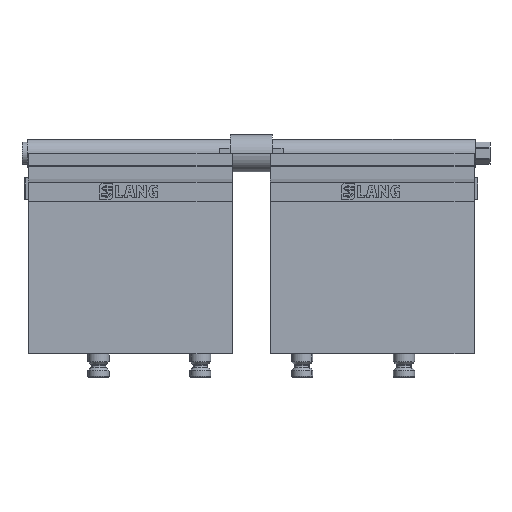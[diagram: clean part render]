
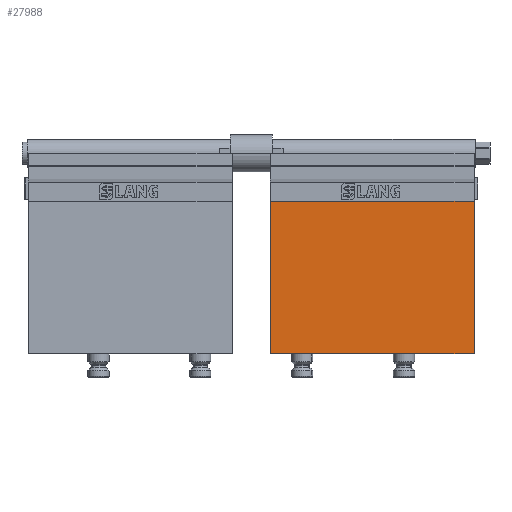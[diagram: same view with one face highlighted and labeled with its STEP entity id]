
A CAD part, top view. The second image highlights one B-rep face of the part: STEP entity #27988.
In plain terms, the highlighted planar face has unit normal (0, 0, 1).
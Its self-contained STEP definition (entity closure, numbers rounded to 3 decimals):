
#236 = VECTOR ( 'NONE', #30507, 1000. ) ;
#2819 = DIRECTION ( 'NONE',  ( 0., 0., -1. ) ) ;
#3798 = VECTOR ( 'NONE', #42338, 1000. ) ;
#6306 = PLANE ( 'NONE',  #24923 ) ;
#6441 = VECTOR ( 'NONE', #40578, 1000. ) ;
#6874 = DIRECTION ( 'NONE',  ( 1., 0., 0. ) ) ;
#8220 = CARTESIAN_POINT ( 'NONE',  ( 209.99, 143.799, 62.8 ) ) ;
#9031 = LINE ( 'NONE', #27328, #236 ) ;
#9990 = EDGE_CURVE ( 'NONE', #45736, #37071, #43525, .T. ) ;
#10302 = CARTESIAN_POINT ( 'NONE',  ( 17.99, 143.799, 62.8 ) ) ;
#12942 = EDGE_CURVE ( 'NONE', #37071, #20491, #9031, .T. ) ;
#13726 = LINE ( 'NONE', #47929, #6441 ) ;
#20056 = CARTESIAN_POINT ( 'NONE',  ( 210.2, 0., 62.8 ) ) ;
#20116 = CARTESIAN_POINT ( 'NONE',  ( 209.99, 0., 62.8 ) ) ;
#20491 = VERTEX_POINT ( 'NONE', #20116 ) ;
#20684 = CARTESIAN_POINT ( 'NONE',  ( 210.2, -0.2, 62.8 ) ) ;
#21173 = DIRECTION ( 'NONE',  ( -1., 0., 0. ) ) ;
#22637 = EDGE_LOOP ( 'NONE', ( #25742, #48209, #29137, #23501 ) ) ;
#23501 = ORIENTED_EDGE ( 'NONE', *, *, #36133, .F. ) ;
#24923 = AXIS2_PLACEMENT_3D ( 'NONE', #20684, #2819, #21173 ) ;
#25742 = ORIENTED_EDGE ( 'NONE', *, *, #12942, .F. ) ;
#27328 = CARTESIAN_POINT ( 'NONE',  ( 209.99, 189., 62.8 ) ) ;
#27750 = VECTOR ( 'NONE', #6874, 1000. ) ;
#27988 = ADVANCED_FACE ( 'NONE', ( #31698 ), #6306, .F. ) ;
#29137 = ORIENTED_EDGE ( 'NONE', *, *, #41650, .T. ) ;
#30507 = DIRECTION ( 'NONE',  ( 0., -1., 0. ) ) ;
#31698 = FACE_OUTER_BOUND ( 'NONE', #22637, .T. ) ;
#34257 = VERTEX_POINT ( 'NONE', #37369 ) ;
#36133 = EDGE_CURVE ( 'NONE', #20491, #34257, #38411, .T. ) ;
#37071 = VERTEX_POINT ( 'NONE', #8220 ) ;
#37369 = CARTESIAN_POINT ( 'NONE',  ( 17.99, 0., 62.8 ) ) ;
#38411 = LINE ( 'NONE', #20056, #3798 ) ;
#40578 = DIRECTION ( 'NONE',  ( 0., -1., 0. ) ) ;
#41650 = EDGE_CURVE ( 'NONE', #45736, #34257, #13726, .T. ) ;
#42338 = DIRECTION ( 'NONE',  ( -1., 0., 0. ) ) ;
#43092 = CARTESIAN_POINT ( 'NONE',  ( 17.99, 143.799, 62.8 ) ) ;
#43525 = LINE ( 'NONE', #10302, #27750 ) ;
#45736 = VERTEX_POINT ( 'NONE', #43092 ) ;
#47929 = CARTESIAN_POINT ( 'NONE',  ( 17.99, 189., 62.8 ) ) ;
#48209 = ORIENTED_EDGE ( 'NONE', *, *, #9990, .F. ) ;
